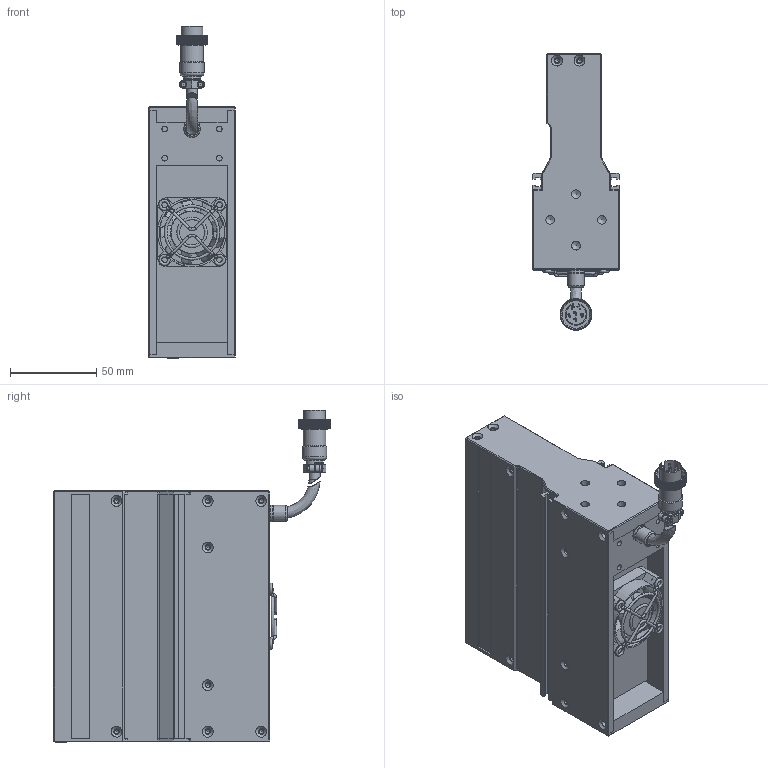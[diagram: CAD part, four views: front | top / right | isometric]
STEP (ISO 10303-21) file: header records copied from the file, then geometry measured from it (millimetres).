
FILE_DESCRIPTION (( 'STEP AP203' ), '1' );
FILE_NAME ('OPT-LSSC146-W-V3.1U尨砩芞.STEP', '2025-02-13T00:48:55', ( '' ), ( '' ), 'SwSTEP 2.0', 'SolidWorks 2016', '' );
FILE_SCHEMA (( 'CONFIG_CONTROL_DESIGN' ));
Products named in the file (1): OPT-LSSC146-W-V3.1U尨砩芞
Bounding box: 50 x 160.65 x 192.83 mm (x, y, z)
Volume: 564948.8 mm3; surface area: 134428.4 mm2
Topology: 9 solids, 17 shells, 3624 faces, 8084 edges, 4538 vertices
Faces by surface type: bspline 2146, cylinder 711, plane 701, cone 63, torus 3
Full cylindrical faces by diameter (mm): 0.95 x6, 1.6 x4, 2 x5, 2.5 x20, 3.2 x8, 3.4 x22, 3.5 x4, 5 x8, 6.2 x4, 6.4 x3, 7.5 x1, 8.6 x1, 9.3 x1, 9.8 x1, 10 x1, 13.2 x1, 14 x1, 16.1 x1, 24.8 x1, 38 x1
Entity records: 131622 total; most frequent: CARTESIAN_POINT 72246, ORIENTED_EDGE 15592, EDGE_CURVE 7796, B_SPLINE_CURVE_WITH_KNOTS 5722, DIRECTION 5276, VERTEX_POINT 4432, EDGE_LOOP 3890, FACE_OUTER_BOUND 3744
